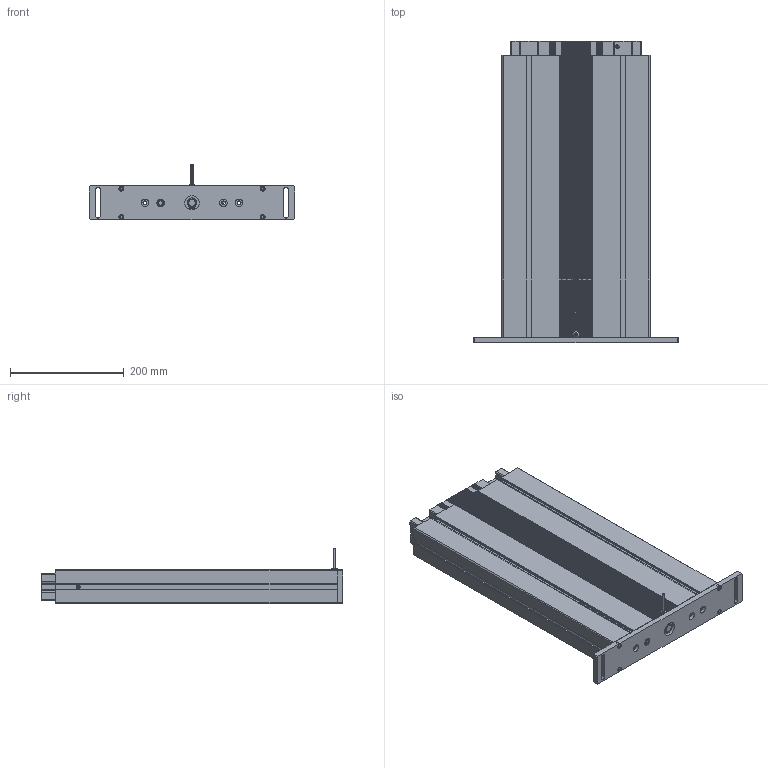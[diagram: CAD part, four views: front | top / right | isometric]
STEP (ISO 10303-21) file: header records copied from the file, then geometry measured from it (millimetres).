
FILE_DESCRIPTION(/* description */ ('Unknown'),/* implementation_level */ '2;1');
FILE_NAME(/* name */ '306.00633_06-eingefahren',/* time_stamp */ '2022-07-05T17:24:44+02:00',/* author */ ('Unknown'),/* organization */ ('Unknown'),/* preprocessor_version */ 'ST-DEVELOPER v18.102',/* originating_system */ 'Solid Edge',/* authorisation */ 'Unknown');
FILE_SCHEMA (('AUTOMOTIVE_DESIGN {1 0 10303 214 3 1 1}'));
Products named in the file (13): 306.00633; 126.00146; 119.00305; 119.00404; 142.00166; 142.00341; 142.00081; 113.00002; 124.00123; 143.00046; 142.00031; 107.00028_oa_0; 125.00033
Assembly tree (16 placements, depth 3):
  306.00633
    126.00146
    119.00305
    119.00404
    142.00166  x4
    142.00341  x2
    142.00081
    113.00002
    124.00123
    143.00046
    142.00031
    107.00028_oa_0
      125.00033
Bounding box: 360 x 530 x 98 mm (x, y, z)
Volume: 2646143.5 mm3; surface area: 1572627.5 mm2
Topology: 15 solids, 15 shells, 2213 faces, 6455 edges, 4300 vertices
Faces by surface type: plane 1277, cylinder 907, torus 15, cone 14
Full cylindrical faces by diameter (mm): 1.8 x2, 2.2 x1, 2.78 x1, 3.242 x4, 3.4 x1, 3.5 x1, 4 x3, 4.2 x1, 5 x5, 5.5 x4, 6 x1, 6.6 x4, 6.917 x2, 7 x2, 8 x1, 8.5 x4, 8.7 x4, 9 x2, 10 x1, 12.5 x1, 13 x6, 13.5 x1, 13.9 x2, 25 x1, 30 x2
Entity records: 86568 total; most frequent: CARTESIAN_POINT 13264, ORIENTED_EDGE 12492, DIRECTION 12210, EDGE_CURVE 6246, LINE 4234, VECTOR 4234, VERTEX_POINT 4203, AXIS2_PLACEMENT_3D 3988
